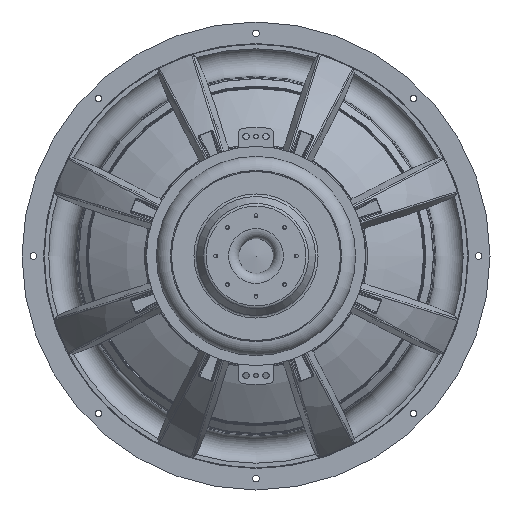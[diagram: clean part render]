
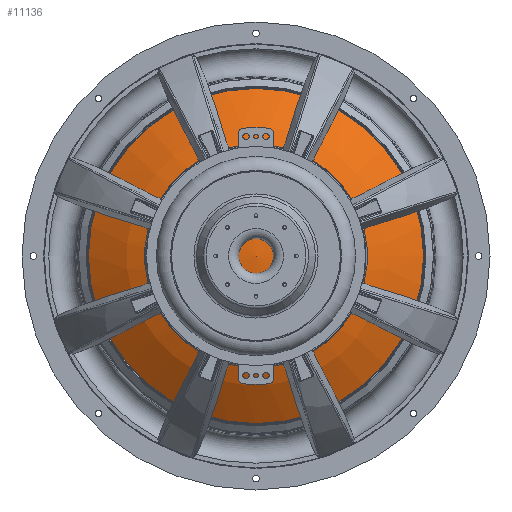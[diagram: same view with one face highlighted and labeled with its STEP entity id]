
A CAD part, front view. The second image highlights one B-rep face of the part: STEP entity #11136.
In plain terms, the highlighted spherical face has radius 288.431 mm.
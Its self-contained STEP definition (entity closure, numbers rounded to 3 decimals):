
#327=SPHERICAL_SURFACE('',#11978,288.431);
#1363=FACE_OUTER_BOUND('',#2064,.T.);
#2064=EDGE_LOOP('',(#7660,#7661,#7662,#7663));
#3540=CIRCLE('',#11979,168.621);
#3541=CIRCLE('',#11980,168.621);
#3542=CIRCLE('',#11981,288.431);
#4362=VERTEX_POINT('',#16776);
#4363=VERTEX_POINT('',#16777);
#4364=VERTEX_POINT('',#16780);
#5602=EDGE_CURVE('',#4362,#4363,#3540,.T.);
#5603=EDGE_CURVE('',#4363,#4362,#3541,.T.);
#5604=EDGE_CURVE('',#4364,#4362,#3542,.T.);
#7660=ORIENTED_EDGE('',*,*,#5602,.T.);
#7661=ORIENTED_EDGE('',*,*,#5603,.T.);
#7662=ORIENTED_EDGE('',*,*,#5604,.F.);
#7663=ORIENTED_EDGE('',*,*,#5604,.T.);
#11136=ADVANCED_FACE('',(#1363),#327,.T.);
#11978=AXIS2_PLACEMENT_3D('',#16775,#13671,#13672);
#11979=AXIS2_PLACEMENT_3D('',#16778,#13673,#13674);
#11980=AXIS2_PLACEMENT_3D('',#16779,#13675,#13676);
#11981=AXIS2_PLACEMENT_3D('',#16781,#13677,#13678);
#13671=DIRECTION('center_axis',(0.,-1.,0.));
#13672=DIRECTION('ref_axis',(-1.,0.,0.));
#13673=DIRECTION('center_axis',(0.,-1.,0.));
#13674=DIRECTION('ref_axis',(1.,0.,0.));
#13675=DIRECTION('center_axis',(0.,-1.,0.));
#13676=DIRECTION('ref_axis',(1.,0.,0.));
#13677=DIRECTION('center_axis',(0.,0.,
1.));
#13678=DIRECTION('ref_axis',(1.,0.,0.));
#16775=CARTESIAN_POINT('Origin',(0.,436.281,0.));
#16776=CARTESIAN_POINT('',(168.621,202.274,0.));
#16777=CARTESIAN_POINT('',(-168.621,202.274,0.192));
#16778=CARTESIAN_POINT('Origin',(0.,202.274,0.));
#16779=CARTESIAN_POINT('Origin',(0.,202.274,0.));
#16780=CARTESIAN_POINT('',(0.,147.85,0.));
#16781=CARTESIAN_POINT('Origin',(0.,436.281,0.));
